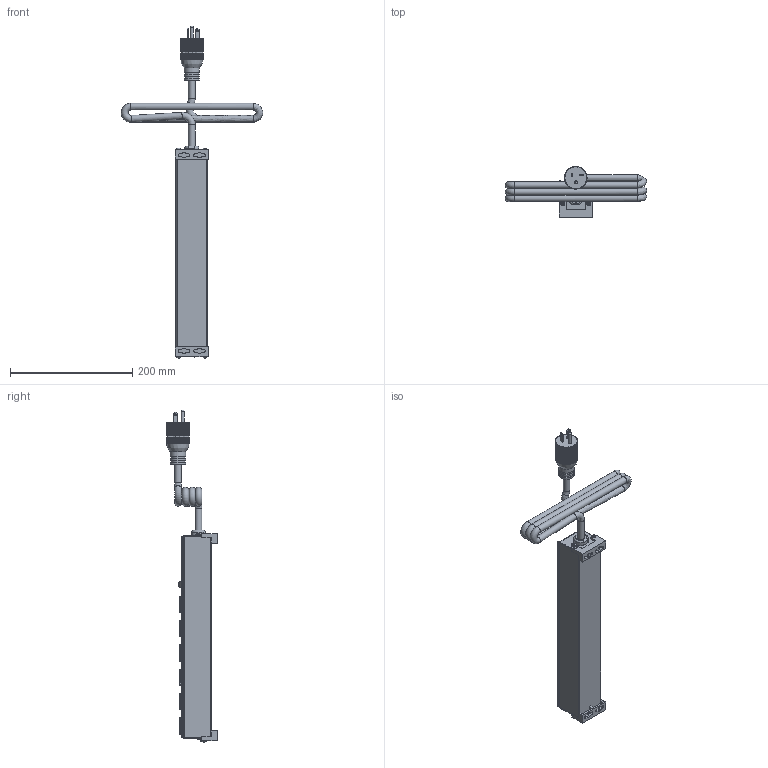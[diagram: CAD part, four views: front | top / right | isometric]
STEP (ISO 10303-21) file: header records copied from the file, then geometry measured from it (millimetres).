
FILE_DESCRIPTION((''),'2;1');
FILE_NAME('E:\Dutton\Manufacturing\drawings\Updated 2009\POWER BARS\1589 series\STEP''s\1589H6F1.stp','2009-12-29T08:52:27',('tfoster'),(''),'Autodesk Inventor 2010','Autodesk Inventor 2010','');
FILE_SCHEMA(('AUTOMOTIVE_DESIGN { 1 0 10303 214 1 1 1 1 }'));
Products named in the file (13): 1589H6F1; 5,6 Outlet extrusion; 6 outlet; #6x0.5 type A; Reset Switch; round head 1-way 8-32 x 0.5 screw; toothwasher; 20 amp Cored; Power Switch Assembly; Power Switch; Power Switch pt; 20 Amp Receptacle; Mounting Bracket
Assembly tree (21 placements, depth 3):
  1589H6F1
    5,6 Outlet extrusion
    6 outlet
    #6x0.5 type A  x4
    Reset Switch
    round head 1-way 8-32 x 0.5 screw
    toothwasher
    20 amp Cored
    Power Switch Assembly
      Power Switch
      Power Switch pt
    20 Amp Receptacle  x6
    Mounting Bracket  x2
Bounding box: 232.04 x 82.59 x 544.25 mm (x, y, z)
Volume: 417624.7 mm3; surface area: 260928.4 mm2
Topology: 20 solids, 20 shells, 1234 faces, 3630 edges, 2438 vertices
Faces by surface type: plane 813, cylinder 245, bspline 99, cone 31, sphere 30, torus 16
Full cylindrical faces by diameter (mm): 1 x2, 1.803 x3, 1.905 x2, 3.2 x2, 4.3 x1, 4.648 x5, 4.826 x1, 7.849 x1, 11 x4, 12.5 x1, 22.606 x2, 25.146 x3
Entity records: 29182 total; most frequent: CARTESIAN_POINT 8667, ORIENTED_EDGE 4406, DIRECTION 3902, EDGE_CURVE 2203, VERTEX_POINT 1510, VECTOR 1404, LINE 1404, AXIS2_PLACEMENT_3D 1249
